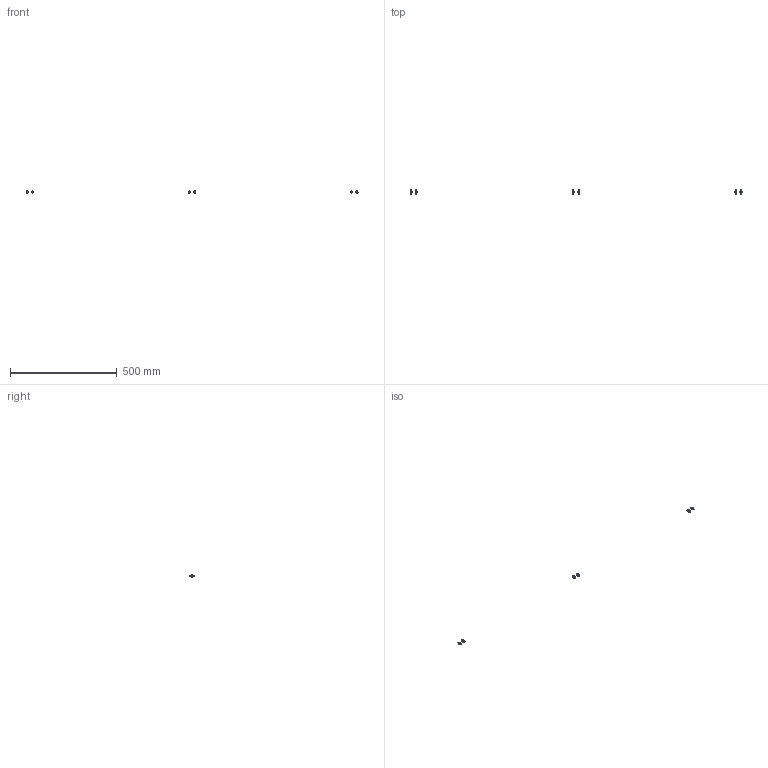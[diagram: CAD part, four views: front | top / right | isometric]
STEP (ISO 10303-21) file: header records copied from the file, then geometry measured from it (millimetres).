
FILE_DESCRIPTION(/* description */ (''),/* implementation_level */ '2;1');
FILE_NAME(/* name */ 'FR383A~1',/* time_stamp */ '2014-02-14T19:37:00+01:00',/* author */ (''),/* organization */ (''),/* preprocessor_version */ 'ST-DEVELOPER v14',/* originating_system */ '',/* authorisation */ '');
FILE_SCHEMA (('AUTOMOTIVE_DESIGN'));
Length unit declared in the file: millimetre
Products named in the file (2): Document; screw DIN7991, sunk, M5x08
Assembly tree (6 placements, depth 2):
  Document
    screw DIN7991, sunk, M5x08  x6
Bounding box: 1551.92 x 20.4 x 9.93 mm (x, y, z)
Volume: 2880.5 mm3; surface area: 3523.7 mm2
Topology: 12 solids, 12 shells, 288 faces, 648 edges, 372 vertices
Faces by surface type: plane 168, bspline 120
Entity records: 9168 total; most frequent: CARTESIAN_POINT 4174, B_SPLINE_CURVE_WITH_KNOTS 882, ORIENTED_EDGE 728, PCURVE 728, DEFINITIONAL_REPRESENTATION 728, SURFACE_CURVE 364, EDGE_CURVE 364, VERTEX_POINT 217
